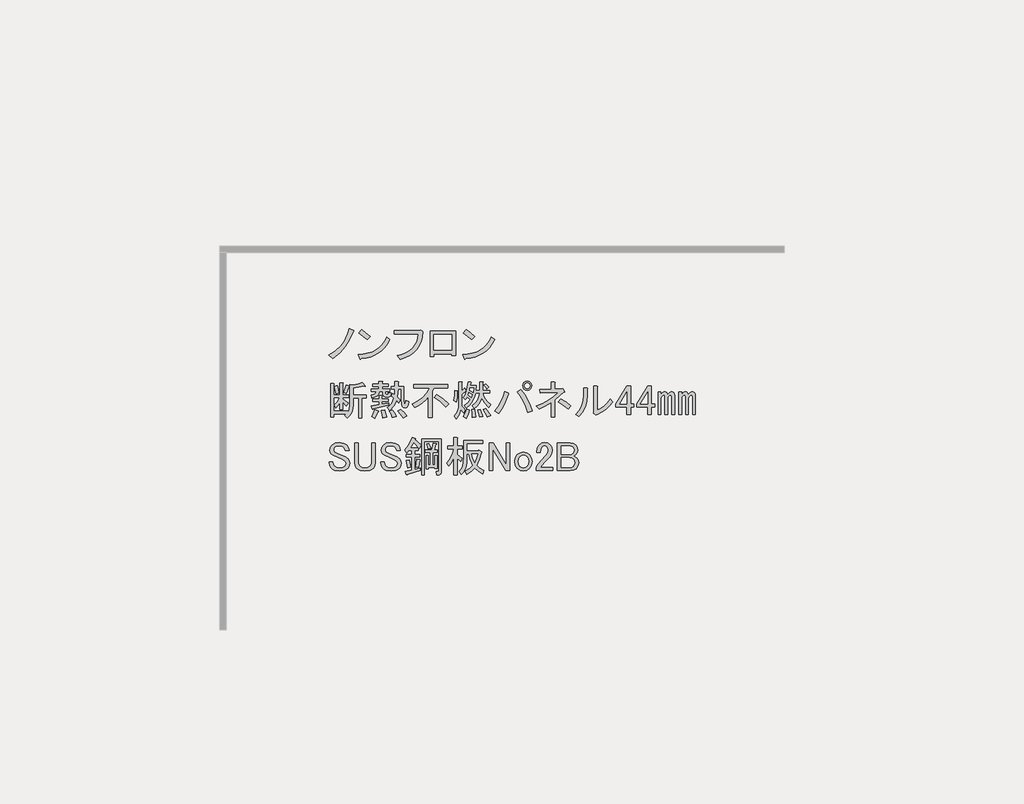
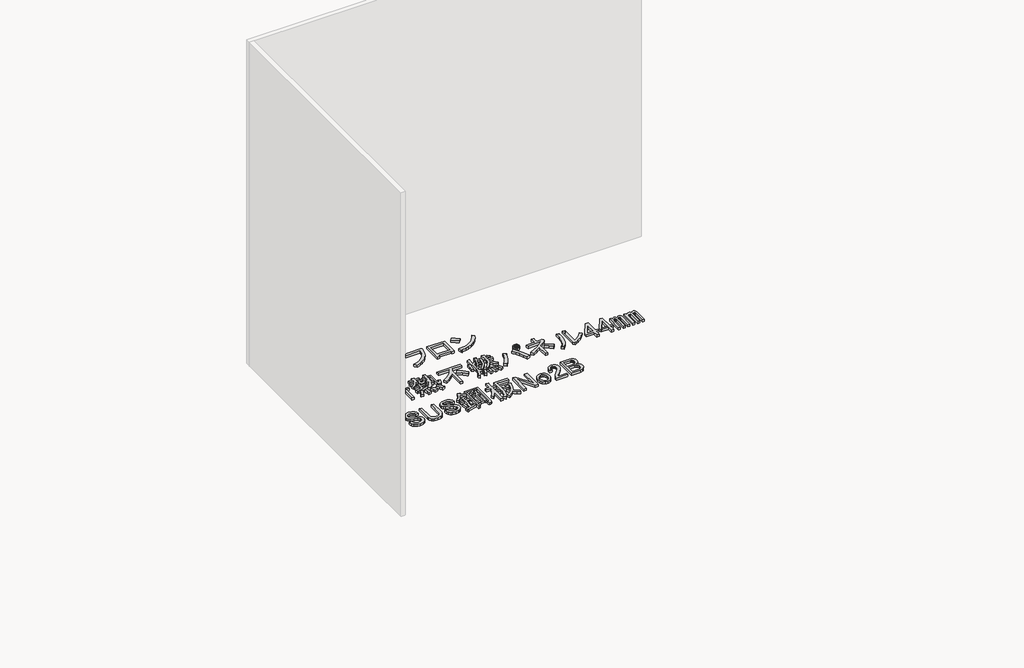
# One storey, part 30 of 117: 1 proxy.
"""IFC4 building model written with IfcOpenShell, lengths in millimetres."""

from ifc_helpers import new_model, si_unit, frame, origin, place, context, project, spatial, polyline, outline, extrude, element, save

model = new_model("IFC4")

# Units and contexts
model_context = context("Model", 3, world=origin())
ifc_project = project(units=[si_unit("LENGTHUNIT", "METRE", prefix="MILLI")], contexts=[model_context])

# Site, building, storey
site = spatial("IfcSite", under=ifc_project)
building = spatial("IfcBuilding", under=site)
storey = spatial("IfcBuildingStorey", under=building, Name="レベル 1", Elevation=500.0)

# Proxy
placement = place(None, origin())
element("IfcBuildingElementProxy", 1, Name="200㎜\u3000MS Pゴシック", ObjectType="200㎜\u3000MS Pゴシック", at=placement, inside=storey, context=model_context, shape_type="SweptSolid", body=[
    extrude(outline(polyline([(8943.6706985, -20607.0496882), (8918.0952502, -20666.8215225), (8889.646156, -20712.7998566), (8847.9782907, -20758.2034615), (8798.8389462, -20795.560858), (8771.2519457, -20773.7211493), (8818.9544673, -20743.2605029), (8858.6107805, -20704.7536481), (8875.9963381, -20680.8305462), (8891.3703435, -20652.7406577), (8904.7327969, -20620.4839827), (8916.0836981, -20584.0605212), (8947.1190736, -20597.8540214), (8950.2800841, -20602.4518548), (8943.6706985, -20607.0496882)])), frame((0.0, 0.0, 500.0), z_axis=(0.0, 0.0, 1.0), x_axis=(1.0, 0.0, 0.0)), (0.0, 0.0, 1.0), 25.0),
    extrude(outline(polyline([(9043.3977052, -20662.2236891), (8984.7753292, -20615.0958967), (9004.3161212, -20590.9572713), (9031.6157571, -20610.7854279), (9065.2374138, -20640.3839804), (9043.3977052, -20662.2236891)])), frame((0.0, 0.0, 500.0), z_axis=(0.0, 0.0, 1.0), x_axis=(1.0, 0.0, 0.0)), (0.0, 0.0, 1.0), 25.0),
    extrude(outline(polyline([(9205.4713328, -20662.2236891), (9188.947869, -20691.965924), (9169.8381239, -20717.9724192), (9148.1420975, -20740.2431748), (9123.8597898, -20758.7781907), (9096.9912008, -20773.577467), (9067.5363306, -20784.6410036), (9035.495179, -20791.9688006), (9000.8677461, -20795.560858), (8995.1204544, -20803.6070664), (8989.3731626, -20797.8597747), (8980.1774958, -20767.9738575), (9016.0082679, -20765.2977748), (9048.7857912, -20758.9937141), (9078.5100658, -20749.0616756), (9105.1810916, -20735.5016591), (9128.7988687, -20718.3136646), (9149.363397, -20697.4976923), (9166.8746766, -20673.053742), (9181.3327074, -20644.9818138), (9205.4713328, -20662.2236891)])), frame((0.0, 0.0, 500.0), z_axis=(0.0, 0.0, 1.0), x_axis=(1.0, 0.0, 0.0)), (0.0, 0.0, 1.0), 25.0),
    extrude(outline(polyline([(9256.2314136, -20777.1695243), (9290.014713, -20767.4889298), (9319.5234641, -20755.1142922), (9344.757667, -20740.0456116), (9365.7173217, -20722.282888), (9382.402428, -20701.8261214), (9394.8129862, -20678.6753118), (9402.9489961, -20652.8304591), (9406.8104577, -20624.2915635), (9234.3917049, -20624.2915635), (9234.3917049, -20599.0034798), (9409.1093744, -20599.0034798), (9425.2017914, -20595.5551047), (9437.8458332, -20607.0496882), (9434.325617, -20643.5449909), (9426.0638851, -20676.5919185), (9413.0606375, -20706.1904711), (9395.3158742, -20732.3406486), (9372.8295952, -20755.042451), (9345.6018005, -20774.2958784), (9313.6324901, -20790.1009308), (9276.921664, -20802.4576081), (9256.2314136, -20777.1695243)])), frame((0.0, 0.0, 500.0), z_axis=(0.0, 0.0, 1.0), x_axis=(1.0, 0.0, 0.0)), (0.0, 0.0, 1.0), 25.0),
    extrude(outline(polyline([(9670.955987, -20776.020066), (9644.5184449, -20776.020066), (9644.5184449, -20763.3760241), (9516.9285679, -20763.3760241), (9516.9285679, -20781.7673577), (9490.4910258, -20781.7673577), (9490.4910258, -20602.4518548), (9670.955987, -20602.4518548), (9670.955987, -20776.020066)]), holes=[polyline([(9516.9285679, -20627.7399386), (9516.9285679, -20738.0879404), (9644.5184449, -20738.0879404), (9644.5184449, -20627.7399386), (9516.9285679, -20627.7399386)])]), frame((0.0, 0.0, 500.0), z_axis=(0.0, 0.0, 1.0), x_axis=(1.0, 0.0, 0.0)), (0.0, 0.0, 1.0), 25.0),
    extrude(outline(polyline([(9947.0099049, -20662.2236891), (9930.4864411, -20691.965924), (9911.376696, -20717.9724192), (9889.6806696, -20740.2431748), (9865.3983619, -20758.7781907), (9838.5297729, -20773.577467), (9809.0749026, -20784.6410036), (9777.0337511, -20791.9688006), (9742.4063182, -20795.560858), (9736.6590264, -20803.6070664), (9730.9117347, -20797.8597747), (9721.7160679, -20767.9738575), (9757.5468399, -20765.2977748), (9790.3243633, -20758.9937141), (9820.0486378, -20749.0616756), (9846.7196637, -20735.5016591), (9870.3374407, -20718.3136646), (9890.9019691, -20697.4976923), (9908.4132486, -20673.053742), (9922.8712795, -20644.9818138), (9947.0099049, -20662.2236891)])), frame((0.0, 0.0, 500.0), z_axis=(0.0, 0.0, 1.0), x_axis=(1.0, 0.0, 0.0)), (0.0, 0.0, 1.0), 25.0),
    extrude(outline(polyline([(9784.9362772, -20662.2236891), (9726.3139013, -20615.0958967), (9745.8546933, -20590.9572713), (9773.1543291, -20610.7854279), (9806.7759859, -20640.3839804), (9784.9362772, -20662.2236891)])), frame((0.0, 0.0, 500.0), z_axis=(0.0, 0.0, 1.0), x_axis=(1.0, 0.0, 0.0)), (0.0, 0.0, 1.0), 25.0),
    extrude(outline(polyline([(8877.0021141, -21039.2345221), (8894.2439894, -20986.3594379), (8914.9342397, -20992.1067296), (8916.6584273, -20995.2677401), (8912.635323, -20997.8540214), (8895.3934477, -21046.1312722), (8877.0021141, -21039.2345221)])), frame((0.0, 0.0, 500.0), z_axis=(0.0, 0.0, 1.0), x_axis=(1.0, 0.0, 0.0)), (0.0, 0.0, 1.0), 25.0),
    extrude(outline(polyline([(9031.0295333, -20990.9572713), (9029.3053458, -20995.5551047), (9021.8338665, -20993.256188), (8944.8201569, -21005.9002299), (8944.8201569, -21055.326939), (9036.7768251, -21055.326939), (9036.7768251, -21077.1666477), (9005.7414495, -21077.1666477), (9005.7414495, -21217.4005666), (8982.7522825, -21217.4005666), (8982.7522825, -21077.1666477), (8944.8201569, -21077.1666477), (8944.8201569, -21126.5933568), (8942.2338756, -21154.3958807), (8934.4750317, -21179.1810764), (8921.5436253, -21200.948944), (8903.4396562, -21219.6994833), (8886.1977809, -21200.1586914), (8896.5429061, -21190.9630245), (8806.8851546, -21190.9630245), (8806.8851546, -21212.8027332), (8783.8959876, -21212.8027332), (8783.8959876, -20973.715396), (8805.7356963, -20973.715396), (8810.6208943, -20976.0143127), (8806.8851546, -20980.6121461), (8806.8851546, -21056.4763974), (8849.4151137, -21056.4763974), (8849.4151137, -20969.1175626), (8867.8064473, -20969.1175626), (8872.6916453, -20971.4164793), (8868.9559057, -20976.0143127), (8868.9559057, -21056.4763974), (8912.635323, -21056.4763974), (8912.635323, -21074.867731), (8868.9559057, -21074.867731), (8868.9559057, -21084.0633978), (8909.186948, -21110.5009399), (8895.3934477, -21132.3406486), (8868.9559057, -21105.9031065), (8868.9559057, -21158.7781907), (8849.4151137, -21158.7781907), (8849.4151137, -21110.5009399), (8836.1963426, -21130.3290965), (8821.8281132, -21146.1341488), (8809.1840713, -21127.7428152), (8831.02378, -21103.6041898), (8848.2656553, -21074.867731), (8806.8851546, -21074.867731), (8806.8851546, -21169.1233159), (8904.5891146, -21169.1233159), (8904.5891146, -21182.9168161), (8917.520521, -21158.7781907), (8921.8309898, -21125.4438985), (8921.8309898, -20980.6121461), (8943.6706985, -20986.3594379), (8979.8786366, -20978.8879586), (9010.339283, -20965.6691875), (9031.0295333, -20990.9572713)])), frame((0.0, 0.0, 500.0), z_axis=(0.0, 0.0, 1.0), x_axis=(1.0, 0.0, 0.0)), (0.0, 0.0, 1.0), 25.0),
    extrude(outline(polyline([(8822.9775716, -21047.2807305), (8810.3335297, -20996.7045631), (8829.8743217, -20989.8078129), (8837.6331656, -21013.9464383), (8842.5183636, -21040.3839804), (8822.9775716, -21047.2807305)])), frame((0.0, 0.0, 500.0), z_axis=(0.0, 0.0, 1.0), x_axis=(1.0, 0.0, 0.0)), (0.0, 0.0, 1.0), 25.0),
    extrude(outline(polyline([(9121.8367431, -21167.9738575), (9125.2851182, -21172.8590555), (9119.5378264, -21176.020066), (9109.7674304, -21201.5955143), (9098.8475761, -21220.8489417), (9075.858409, -21209.3543582), (9088.5024509, -21185.790462), (9098.8475761, -21158.7781907), (9121.8367431, -21167.9738575)])), frame((0.0, 0.0, 500.0), z_axis=(0.0, 0.0, 1.0), x_axis=(1.0, 0.0, 0.0)), (0.0, 0.0, 1.0), 25.0),
    extrude(outline(polyline([(9166.6656188, -21163.3760241), (9176.7233794, -21190.67566), (9181.6085774, -21212.8027332), (9152.8721186, -21218.550025), (9150.2858373, -21196.9976809), (9142.5269934, -21166.8243992), (9166.6656188, -21163.3760241)])), frame((0.0, 0.0, 500.0), z_axis=(0.0, 0.0, 1.0), x_axis=(1.0, 0.0, 0.0)), (0.0, 0.0, 1.0), 25.0),
    extrude(outline(polyline([(9281.611454, -21157.6287323), (9306.3248086, -21178.8937119), (9325.2908714, -21203.6070664), (9298.8533293, -21218.550025), (9279.5999019, -21188.9514724), (9260.9212037, -21169.1233159), (9281.611454, -21157.6287323)])), frame((0.0, 0.0, 500.0), z_axis=(0.0, 0.0, 1.0), x_axis=(1.0, 0.0, 0.0)), (0.0, 0.0, 1.0), 25.0),
    extrude(outline(polyline([(9222.9890781, -21216.2511083), (9214.655505, -21191.5377537), (9201.1493694, -21170.2727742), (9221.8396197, -21162.2265657), (9238.7941304, -21183.7789098), (9250.5760785, -21207.0554415), (9222.9890781, -21216.2511083)])), frame((0.0, 0.0, 500.0), z_axis=(0.0, 0.0, 1.0), x_axis=(1.0, 0.0, 0.0)), (0.0, 0.0, 1.0), 25.0),
    extrude(outline(polyline([(9083.9046175, -21153.0308989), (9081.8930654, -21157.9160969), (9078.1573257, -21156.479274), (9072.410034, -21132.3406486), (9127.5840349, -21124.2944401), (9127.5840349, -21101.3052731), (9083.9046175, -21101.3052731), (9083.9046175, -21082.9139395), (9127.5840349, -21082.9139395), (9127.5840349, -21059.9247724), (9145.9753685, -21059.9247724), (9150.8605665, -21062.2236891), (9147.1248268, -21066.8215225), (9147.1248268, -21082.9139395), (9191.9537026, -21082.9139395), (9191.9537026, -21101.3052731), (9147.1248268, -21101.3052731), (9147.1248268, -21120.8460651), (9197.7009943, -21111.6503983), (9197.7009943, -21127.7428152), (9083.9046175, -21153.0308989)])), frame((0.0, 0.0, 500.0), z_axis=(0.0, 0.0, 1.0), x_axis=(1.0, 0.0, 0.0)), (0.0, 0.0, 1.0), 25.0),
    extrude(outline(polyline([(9154.021577, -21031.1883136), (9128.7334932, -21031.1883136), (9124.1356598, -21048.6457123), (9113.7905346, -21061.9363245), (9097.6981177, -21071.0601502), (9075.858409, -21076.0171893), (9071.2605756, -21056.4763974), (9096.5486594, -21047.8554597), (9104.0201386, -21040.5276627), (9108.0432429, -21031.1883136), (9072.410034, -21031.1883136), (9072.410034, -21012.79698), (9126.4345765, -21012.79698), (9126.4345765, -20995.5551047), (9082.7551591, -20995.5551047), (9082.7551591, -20977.1637711), (9126.4345765, -20977.1637711), (9126.4345765, -20958.7724374), (9148.2742852, -20958.7724374), (9153.1594832, -20961.0713541), (9149.4237436, -20965.6691875), (9149.4237436, -20977.1637711), (9191.9537026, -20977.1637711), (9191.9537026, -20995.5551047), (9149.4237436, -20995.5551047), (9149.4237436, -21012.79698), (9202.2988277, -21012.79698), (9202.2988277, -21031.1883136), (9173.5623689, -21031.1883136), (9173.5623689, -21043.8323555), (9174.9991919, -21049.0049181), (9179.3096607, -21050.7291056), (9189.6547859, -21050.7291056), (9193.3905255, -21047.5680951), (9193.1031609, -21038.0850637), (9212.6439529, -21040.3839804), (9209.770307, -21061.9363245), (9204.4540622, -21067.3244106), (9196.551536, -21069.1204392), (9172.4129106, -21069.1204392), (9158.6194104, -21064.2352412), (9154.021577, -21049.5796472), (9154.021577, -21031.1883136)])), frame((0.0, 0.0, 500.0), z_axis=(0.0, 0.0, 1.0), x_axis=(1.0, 0.0, 0.0)), (0.0, 0.0, 1.0), 25.0),
    extrude(outline(polyline([(9285.0598291, -21013.9464383), (9263.2201204, -21013.9464383), (9258.622287, -21071.4193559), (9278.163079, -21089.8106896), (9267.8179538, -21111.6503983), (9251.7255369, -21095.5579813), (9232.4721095, -21133.2027424), (9202.2988277, -21165.6749408), (9185.0569525, -21144.9846905), (9200.1435933, -21133.0590601), (9213.2186821, -21117.9724192), (9224.2822187, -21099.7247679), (9233.3342033, -21078.316106), (9216.092328, -21063.3731475), (9224.1385364, -21046.1312722), (9237.9320367, -21056.4763974), (9240.2309534, -21013.9464383), (9212.6439529, -21013.9464383), (9212.6439529, -20995.5551047), (9240.2309534, -20995.5551047), (9240.2309534, -20961.0713541), (9262.0706621, -20961.0713541), (9266.95586, -20963.3702708), (9263.2201204, -20967.9681043), (9263.2201204, -20995.5551047), (9304.6006211, -20995.5551047), (9304.6006211, -21092.1096063), (9308.0489961, -21116.2482317), (9311.2818477, -21118.2597838), (9314.0836525, -21115.0987733), (9318.3941213, -21093.2590646), (9337.9349133, -21100.1558147), (9333.408921, -21126.9525626), (9325.578236, -21142.9731384), (9314.4428582, -21148.2175421), (9300.0027877, -21142.6857738), (9293.4652433, -21135.3579768), (9288.7955687, -21123.719711), (9285.0598291, -21087.5117729), (9285.0598291, -21013.9464383)])), frame((0.0, 0.0, 500.0), z_axis=(0.0, 0.0, 1.0), x_axis=(1.0, 0.0, 0.0)), (0.0, 0.0, 1.0), 25.0),
    extrude(outline(polyline([(9373.5681222, -20980.6121461), (9614.9543761, -20980.6121461), (9614.9543761, -21005.9002299), (9514.9514995, -21005.9002299), (9504.6063743, -21030.0388553), (9504.6063743, -21216.2511083), (9478.1688322, -21216.2511083), (9478.1688322, -21069.1204392), (9457.3348996, -21092.3969709), (9433.9146857, -21112.7998566), (9407.9081905, -21130.3290965), (9379.315414, -21144.9846905), (9363.222997, -21118.5471484), (9402.807469, -21098.1442626), (9436.500967, -21072.5688143), (9464.3034909, -21041.8208034), (9486.2150407, -21005.9002299), (9373.5681222, -21005.9002299), (9373.5681222, -20980.6121461)])), frame((0.0, 0.0, 500.0), z_axis=(0.0, 0.0, 1.0), x_axis=(1.0, 0.0, 0.0)), (0.0, 0.0, 1.0), 25.0),
    extrude(outline(polyline([(9600.0114176, -21141.5363154), (9560.9298336, -21103.3168252), (9519.5493329, -21073.7182726), (9535.6417498, -21053.0280223), (9579.3211672, -21081.1897519), (9620.7016679, -21119.6966067), (9600.0114176, -21141.5363154)])), frame((0.0, 0.0, 500.0), z_axis=(0.0, 0.0, 1.0), x_axis=(1.0, 0.0, 0.0)), (0.0, 0.0, 1.0), 25.0),
    extrude(outline(polyline([(9767.832337, -21163.3760241), (9759.2113993, -21193.8366704), (9744.8431699, -21220.8489417), (9725.3023779, -21208.2048998), (9739.3832427, -21183.4915453), (9749.4410033, -21155.3298156), (9767.832337, -21163.3760241)])), frame((0.0, 0.0, 500.0), z_axis=(0.0, 0.0, 1.0), x_axis=(1.0, 0.0, 0.0)), (0.0, 0.0, 1.0), 25.0),
    extrude(outline(polyline([(9682.7724189, -21025.4410219), (9687.3702523, -21027.7399386), (9682.7724189, -21032.337772), (9681.6229605, -21071.9940851), (9675.8756688, -21105.9031065), (9657.4843352, -21093.2590646), (9663.2316269, -21058.7753141), (9664.3810853, -21021.9926468), (9682.7724189, -21025.4410219)])), frame((0.0, 0.0, 500.0), z_axis=(0.0, 0.0, 1.0), x_axis=(1.0, 0.0, 0.0)), (0.0, 0.0, 1.0), 25.0),
    extrude(outline(polyline([(9734.4980447, -21007.0496882), (9743.6937116, -21024.2915635), (9745.1305345, -21030.3262199), (9740.2453365, -21030.0388553), (9713.8077944, -21050.7291056), (9713.8077944, -21134.6395653), (9727.6012946, -21146.9962426), (9739.0958781, -21163.3760241), (9726.4518363, -21184.0662744), (9708.0605026, -21158.7781907), (9696.2785545, -21194.6987642), (9674.7262104, -21224.2973168), (9659.7832519, -21205.9059831), (9674.8698927, -21187.1554438), (9685.6460648, -21166.5370346), (9692.111768, -21144.0507556), (9694.2670024, -21119.6966067), (9694.2670024, -20962.2208125), (9712.6583361, -20962.2208125), (9717.543534, -20964.5197292), (9713.8077944, -20969.1175626), (9713.8077944, -21027.7399386), (9734.4980447, -21007.0496882)])), frame((0.0, 0.0, 500.0), z_axis=(0.0, 0.0, 1.0), x_axis=(1.0, 0.0, 0.0)), (0.0, 0.0, 1.0), 25.0),
    extrude(outline(polyline([(9885.0770889, -20976.0143127), (9906.9167975, -21000.1529381), (9889.6749223, -21011.6475216), (9883.0655367, -21000.1529381), (9870.1341303, -20986.3594379), (9885.0770889, -20976.0143127)])), frame((0.0, 0.0, 500.0), z_axis=(0.0, 0.0, 1.0), x_axis=(1.0, 0.0, 0.0)), (0.0, 0.0, 1.0), 25.0),
    extrude(outline(polyline([(9895.422214, -21212.8027332), (9882.203443, -21184.6410036), (9865.5362969, -21159.927649), (9883.9276305, -21151.8814406), (9902.8936933, -21174.8706076), (9918.4113811, -21202.4576081), (9895.422214, -21212.8027332)])), frame((0.0, 0.0, 500.0), z_axis=(0.0, 0.0, 1.0), x_axis=(1.0, 0.0, 0.0)), (0.0, 0.0, 1.0), 25.0),
    extrude(outline(polyline([(9845.9955049, -21157.6287323), (9864.3868385, -21207.0554415), (9840.2482131, -21211.6532749), (9826.4547129, -21161.0771074), (9845.9955049, -21157.6287323)])), frame((0.0, 0.0, 500.0), z_axis=(0.0, 0.0, 1.0), x_axis=(1.0, 0.0, 0.0)), (0.0, 0.0, 1.0), 25.0),
    extrude(outline(polyline([(9787.3731289, -21215.1016499), (9787.9478581, -21188.0893787), (9785.0742122, -21159.927649), (9804.6150042, -21158.7781907), (9810.9370252, -21184.9283682), (9811.5117543, -21212.8027332), (9787.3731289, -21215.1016499)])), frame((0.0, 0.0, 500.0), z_axis=(0.0, 0.0, 1.0), x_axis=(1.0, 0.0, 0.0)), (0.0, 0.0, 1.0), 25.0),
    extrude(outline(polyline([(9906.9167975, -21142.6857738), (9876.1687866, -21112.2251274), (9855.1911717, -21078.316106), (9846.7857575, -21100.4431793), (9835.3630151, -21119.6966067), (9820.9229446, -21136.0763882), (9803.4655459, -21149.5825239), (9789.6720456, -21131.1911902), (9810.5059783, -21112.2969686), (9825.8799837, -21091.2475125), (9835.794062, -21068.042822), (9840.2482131, -21042.6828971), (9811.5117543, -21042.6828971), (9803.537387, -21073.2872258), (9789.9594102, -21100.7305439), (9770.777824, -21125.0128516), (9745.9926283, -21146.1341488), (9733.3485864, -21130.0417319), (9759.2113993, -21108.4893878), (9774.7290871, -21087.5117729), (9752.8893784, -21067.9709809), (9739.0958781, -21088.6612312), (9725.3023779, -21073.7182726), (9737.7308964, -21054.6803687), (9747.4294512, -21029.7514907), (9754.3980425, -20998.9316386), (9758.6366701, -20962.2208125), (9779.3269205, -20964.5197292), (9782.7752955, -20967.1060105), (9777.0280038, -20970.267021), (9774.7290871, -20988.6583546), (9818.4085044, -20988.6583546), (9814.9601294, -21024.2915635), (9840.2482131, -21024.2915635), (9840.2482131, -20962.2208125), (9862.0879218, -20962.2208125), (9866.9731198, -20964.5197292), (9863.2373802, -20969.1175626), (9863.2373802, -21024.2915635), (9912.6640893, -21024.2915635), (9912.6640893, -21042.6828971), (9863.2373802, -21042.6828971), (9869.7749245, -21064.4507647), (9881.3413492, -21084.9254916), (9897.9366542, -21104.1070778), (9919.5608394, -21121.9955234), (9906.9167975, -21142.6857738)]), holes=[polyline([(9782.7752955, -21072.5688143), (9789.6720456, -21053.0280223), (9764.3839619, -21036.9356054), (9758.6366701, -21054.1774807), (9782.7752955, -21072.5688143)]), polyline([(9772.4301704, -21007.0496882), (9768.9817953, -21023.1421052), (9794.269879, -21036.9356054), (9798.8677125, -21007.0496882), (9772.4301704, -21007.0496882)])]), frame((0.0, 0.0, 500.0), z_axis=(0.0, 0.0, 1.0), x_axis=(1.0, 0.0, 0.0)), (0.0, 0.0, 1.0), 25.0),
    extrude(outline(polyline([(10132.2106345, -21016.245355), (10158.8637001, -21052.9561812), (10181.3499791, -21090.6727833), (10199.6694716, -21129.3951616), (10213.8221775, -21169.1233159), (10182.786802, -21179.468441), (10167.3409554, -21136.3637528), (10149.7398744, -21097.856898), (10129.983559, -21063.9478766), (10108.0720092, -21034.6366887), (10132.2106345, -21016.245355)])), frame((0.0, 0.0, 500.0), z_axis=(0.0, 0.0, 1.0), x_axis=(1.0, 0.0, 0.0)), (0.0, 0.0, 1.0), 25.0),
    extrude(outline(polyline([(10044.8517998, -21042.6828971), (10048.874904, -21048.1428243), (10042.5528831, -21053.0280223), (10030.6272527, -21088.4457078), (10015.5406118, -21122.282888), (9997.2929605, -21154.539563), (9975.8842987, -21185.2157328), (9949.4467566, -21167.9738575), (9972.6514471, -21136.5074351), (9991.689351, -21103.0294606), (10006.5604684, -21067.539934), (10017.2647993, -21030.0388553), (10044.8517998, -21042.6828971)])), frame((0.0, 0.0, 500.0), z_axis=(0.0, 0.0, 1.0), x_axis=(1.0, 0.0, 0.0)), (0.0, 0.0, 1.0), 25.0),
    extrude(outline(polyline([(10178.1889686, -21021.9926468), (10165.5449268, -21019.6937301), (10155.1998016, -21012.79698), (10148.3030515, -21002.4518548), (10146.0041348, -20989.8078129), (10148.3030515, -20977.1637711), (10155.1998016, -20966.8186459), (10165.5449268, -20959.9218958), (10178.1889686, -20957.6229791), (10190.8330105, -20959.9218958), (10201.1781357, -20966.8186459), (10208.0748858, -20977.1637711), (10210.3738025, -20989.8078129), (10208.0748858, -21002.4518548), (10201.1781357, -21012.79698), (10190.8330105, -21019.6937301), (10178.1889686, -21021.9926468)]), holes=[polyline([(10178.1889686, -21010.4980633), (10186.5225417, -21009.0612403), (10193.1319272, -21004.7507715), (10197.442396, -20998.141386), (10198.879219, -20989.8078129), (10197.442396, -20981.4742399), (10193.1319272, -20974.8648544), (10186.5225417, -20970.5543855), (10178.1889686, -20969.1175626), (10169.8553956, -20970.5543855), (10163.2460101, -20974.8648544), (10158.9355412, -20981.4742399), (10157.4987183, -20989.8078129), (10158.9355412, -20998.141386), (10163.2460101, -21004.7507715), (10169.8553956, -21009.0612403), (10178.1889686, -21010.4980633)])]), frame((0.0, 0.0, 500.0), z_axis=(0.0, 0.0, 1.0), x_axis=(1.0, 0.0, 0.0)), (0.0, 0.0, 1.0), 25.0),
    extrude(outline(polyline([(10421.8741393, -21011.6475216), (10428.7708894, -21009.3486049), (10441.4149312, -21026.5904802), (10442.5643896, -21032.6251366), (10436.8170978, -21034.6366887), (10373.5968885, -21090.9601479), (10373.5968885, -21211.6532749), (10347.1593464, -21211.6532749), (10347.1593464, -21109.3514816), (10306.9283041, -21133.4901069), (10262.0994283, -21155.3298156), (10242.5586363, -21134.6395653), (10288.1059235, -21115.1706145), (10329.3427419, -21092.3969709), (10366.2690915, -21066.3186345), (10398.8849722, -21036.9356054), (10268.9961784, -21042.6828971), (10265.5478034, -21017.3948134), (10347.1593464, -21015.0958967), (10347.1593464, -20963.3702708), (10370.1485134, -20963.3702708), (10376.1831698, -20966.8186459), (10373.5968885, -20972.5659377), (10373.5968885, -21013.9464383), (10421.8741393, -21011.6475216)])), frame((0.0, 0.0, 500.0), z_axis=(0.0, 0.0, 1.0), x_axis=(1.0, 0.0, 0.0)), (0.0, 0.0, 1.0), 25.0),
    extrude(outline(polyline([(10467.8524733, -21155.3298156), (10430.7824415, -21126.0186277), (10397.7355139, -21104.7536481), (10414.9773892, -21082.9139395), (10453.7716085, -21106.1904711), (10487.3932653, -21132.3406486), (10467.8524733, -21155.3298156)])), frame((0.0, 0.0, 500.0), z_axis=(0.0, 0.0, 1.0), x_axis=(1.0, 0.0, 0.0)), (0.0, 0.0, 1.0), 25.0),
    extrude(outline(polyline([(10674.8469334, -21162.2265657), (10699.6321291, -21150.0135708), (10723.4115488, -21132.9153778), (10746.1851924, -21110.9319868), (10767.9530599, -21084.0633978), (10784.0454768, -21105.9031065), (10760.7689452, -21133.7056304), (10734.6187677, -21157.3413678), (10705.5949443, -21176.8103186), (10673.697475, -21192.1124829), (10664.5018082, -21196.7103163), (10646.1104746, -21182.9168161), (10648.4093913, -21177.1695243), (10648.4093913, -20992.1067296), (10672.5480167, -20992.1067296), (10678.2953084, -20995.5551047), (10674.8469334, -21001.3023965), (10674.8469334, -21162.2265657)])), frame((0.0, 0.0, 500.0), z_axis=(0.0, 0.0, 1.0), x_axis=(1.0, 0.0, 0.0)), (0.0, 0.0, 1.0), 25.0),
    extrude(outline(polyline([(10520.8195142, -21193.2619413), (10545.9639157, -21164.0225944), (10563.9242024, -21131.4785548), (10574.7003745, -21095.6298225), (10578.2924318, -21056.4763974), (10578.2924318, -21004.7507715), (10602.4310572, -21004.7507715), (10608.178349, -21008.1991466), (10604.7299739, -21013.9464383), (10604.7299739, -21055.326939), (10600.9223931, -21101.0897496), (10589.4996507, -21141.82368), (10570.4617468, -21177.5287301), (10543.8086812, -21208.2048998), (10520.8195142, -21193.2619413)])), frame((0.0, 0.0, 500.0), z_axis=(0.0, 0.0, 1.0), x_axis=(1.0, 0.0, 0.0)), (0.0, 0.0, 1.0), 25.0),
    extrude(outline(polyline([(10884.0483535, -20993.256188), (10910.4858955, -20993.256188), (10910.4858955, -21119.6966067), (10934.6245209, -21119.6966067), (10934.6245209, -21141.5363154), (10910.4858955, -21141.5363154), (10910.4858955, -21192.1124829), (10884.0483535, -21192.1124829), (10884.0483535, -21141.5363154), (10807.0346439, -21141.5363154), (10807.0346439, -21118.5471484), (10884.0483535, -20993.256188)]), holes=[polyline([(10884.0483535, -21035.786147), (10832.3227276, -21119.6966067), (10884.0483535, -21119.6966067), (10884.0483535, -21035.786147)])]), frame((0.0, 0.0, 500.0), z_axis=(0.0, 0.0, 1.0), x_axis=(1.0, 0.0, 0.0)), (0.0, 0.0, 1.0), 25.0),
    extrude(outline(polyline([(11031.1790225, -20993.256188), (11057.6165646, -20993.256188), (11057.6165646, -21119.6966067), (11081.75519, -21119.6966067), (11081.75519, -21141.5363154), (11057.6165646, -21141.5363154), (11057.6165646, -21192.1124829), (11031.1790225, -21192.1124829), (11031.1790225, -21141.5363154), (10954.1653129, -21141.5363154), (10954.1653129, -21118.5471484), (11031.1790225, -20993.256188)]), holes=[polyline([(11031.1790225, -21035.786147), (10979.4533967, -21119.6966067), (11031.1790225, -21119.6966067), (11031.1790225, -21035.786147)])]), frame((0.0, 0.0, 500.0), z_axis=(0.0, 0.0, 1.0), x_axis=(1.0, 0.0, 0.0)), (0.0, 0.0, 1.0), 25.0),
    extrude(outline(polyline([(11125.4346074, -21193.2619413), (11105.8938154, -21193.2619413), (11105.8938154, -21035.786147), (11125.4346074, -21035.786147), (11125.4346074, -21053.0280223), (11137.5039201, -21037.5103346), (11150.7226911, -21032.337772), (11159.9183579, -21033.7745949), (11166.8151081, -21038.0850637), (11173.7118582, -21051.878564), (11186.6432646, -21037.22297), (11200.1494003, -21032.337772), (11208.4829733, -21033.7745949), (11215.0923588, -21038.0850637), (11220.2649214, -21046.7060014), (11221.989109, -21058.7753141), (11221.989109, -21193.2619413), (11202.448317, -21193.2619413), (11202.448317, -21069.1204392), (11199.8620357, -21059.6374078), (11192.1031918, -21056.4763974), (11181.7580666, -21061.0742308), (11175.7234103, -21069.6951684), (11173.7118582, -21079.4655644), (11173.7118582, -21193.2619413), (11154.1710662, -21193.2619413), (11154.1710662, -21069.1204392), (11151.5847849, -21059.6374078), (11143.825941, -21056.4763974), (11133.4808158, -21061.0742308), (11127.4461595, -21069.6951684), (11125.4346074, -21079.4655644), (11125.4346074, -21193.2619413)])), frame((0.0, 0.0, 500.0), z_axis=(0.0, 0.0, 1.0), x_axis=(1.0, 0.0, 0.0)), (0.0, 0.0, 1.0), 25.0),
    extrude(outline(polyline([(11347.2800693, -21032.337772), (11355.6136424, -21033.7745949), (11362.2230279, -21038.0850637), (11367.3955905, -21046.7060014), (11369.119778, -21058.7753141), (11369.119778, -21193.2619413), (11349.578986, -21193.2619413), (11349.578986, -21069.1204392), (11346.9927047, -21059.6374078), (11339.2338609, -21056.4763974), (11328.8887357, -21061.0742308), (11322.8540793, -21069.6951684), (11320.8425272, -21079.4655644), (11320.8425272, -21193.2619413), (11301.3017352, -21193.2619413), (11301.3017352, -21069.1204392), (11298.715454, -21059.6374078), (11290.9566101, -21056.4763974), (11280.6114849, -21061.0742308), (11274.5768286, -21069.6951684), (11272.5652764, -21079.4655644), (11272.5652764, -21193.2619413), (11253.0244845, -21193.2619413), (11253.0244845, -21035.786147), (11272.5652764, -21035.786147), (11272.5652764, -21053.0280223), (11284.6345891, -21037.5103346), (11297.8533602, -21032.337772), (11307.049027, -21033.7745949), (11313.9457771, -21038.0850637), (11320.8425272, -21051.878564), (11333.7739337, -21037.22297), (11347.2800693, -21032.337772)])), frame((0.0, 0.0, 500.0), z_axis=(0.0, 0.0, 1.0), x_axis=(1.0, 0.0, 0.0)), (0.0, 0.0, 1.0), 25.0),
    extrude(outline(polyline([(8779.2981542, -21447.2807305), (8783.3212584, -21426.8778448), (8795.3905711, -21409.3486049), (8815.7934569, -21397.2792922), (8844.8172803, -21393.256188), (8876.1400204, -21397.8540214), (8898.8418228, -21411.6475216), (8910.9111355, -21429.1767615), (8914.9342397, -21449.5796472), (8888.4966976, -21449.5796472), (8886.1977809, -21436.9356054), (8879.3010308, -21426.5904802), (8866.0822598, -21418.8316363), (8847.116197, -21416.245355), (8826.7133112, -21418.5442717), (8813.7819048, -21425.4410219), (8807.7472484, -21434.0619595), (8805.7356963, -21443.8323555), (8810.3335297, -21458.7753141), (8831.02378, -21470.2698976), (8890.7956143, -21496.7074397), (8908.0374896, -21508.2020232), (8917.520521, -21521.9955234), (8920.6815315, -21538.0879404), (8916.6584273, -21559.3529199), (8904.5891146, -21577.1695243), (8894.6031951, -21584.7128448), (8881.8873121, -21590.1009308), (8848.2656553, -21594.4113996), (8814.6439985, -21589.238837), (8801.0660217, -21582.7731338), (8789.6432794, -21573.7211493), (8778.4360604, -21555.3298156), (8774.7003208, -21530.0417319), (8801.1378629, -21530.0417319), (8803.4367796, -21547.8583363), (8810.3335297, -21559.927649), (8826.4259466, -21569.4106804), (8849.4151137, -21572.5716909), (8870.3927286, -21569.698045), (8885.0483226, -21561.0771074), (8891.9450727, -21551.8814406), (8894.2439894, -21542.6857738), (8892.5198019, -21533.2027424), (8887.3472393, -21525.4438985), (8868.9559057, -21513.949315), (8839.0699885, -21500.1558147), (8805.7356963, -21485.2128562), (8789.6432794, -21474.867731), (8781.8844355, -21462.7984183), (8779.2981542, -21447.2807305)])), frame((0.0, 0.0, 500.0), z_axis=(0.0, 0.0, 1.0), x_axis=(1.0, 0.0, 0.0)), (0.0, 0.0, 1.0), 25.0),
    extrude(outline(polyline([(8954.7054987, -21395.5551047), (8981.1430408, -21395.5551047), (8981.1430408, -21533.4901069), (8983.7293221, -21548.1457009), (8991.488166, -21559.927649), (9007.0058537, -21569.4106804), (9028.2708332, -21572.5716909), (9049.5358128, -21569.4106804), (9065.0535005, -21559.927649), (9072.8123444, -21548.1457009), (9075.3986257, -21533.4901069), (9075.3986257, -21395.5551047), (9101.8361678, -21395.5551047), (9101.8361678, -21534.6395653), (9097.8130635, -21557.6287323), (9085.7437508, -21576.020066), (9075.2549434, -21584.0662744), (9062.1798546, -21589.8135662), (9028.2708332, -21594.4113996), (8994.3618119, -21589.8135662), (8981.2867231, -21584.0662744), (8970.7979156, -21576.020066), (8958.7286029, -21557.6287323), (8954.7054987, -21534.6395653), (8954.7054987, -21395.5551047)])), frame((0.0, 0.0, 500.0), z_axis=(0.0, 0.0, 1.0), x_axis=(1.0, 0.0, 0.0)), (0.0, 0.0, 1.0), 25.0),
    extrude(outline(polyline([(9144.1822135, -21447.2807305), (9148.2053177, -21426.8778448), (9160.2746304, -21409.3486049), (9180.6775161, -21397.2792922), (9209.7013395, -21393.256188), (9241.0240796, -21397.8540214), (9263.7258821, -21411.6475216), (9275.7951948, -21429.1767615), (9279.818299, -21449.5796472), (9253.3807569, -21449.5796472), (9251.0818402, -21436.9356054), (9244.1850901, -21426.5904802), (9230.966319, -21418.8316363), (9212.0002562, -21416.245355), (9191.5973705, -21418.5442717), (9178.665964, -21425.4410219), (9172.6313077, -21434.0619595), (9170.6197556, -21443.8323555), (9175.217589, -21458.7753141), (9195.9078393, -21470.2698976), (9255.6796736, -21496.7074397), (9272.9215489, -21508.2020232), (9282.4045803, -21521.9955234), (9285.5655908, -21538.0879404), (9281.5424865, -21559.3529199), (9269.4731738, -21577.1695243), (9259.4872544, -21584.7128448), (9246.7713714, -21590.1009308), (9213.1497146, -21594.4113996), (9179.5280578, -21589.238837), (9165.950081, -21582.7731338), (9154.5273386, -21573.7211493), (9143.3201197, -21555.3298156), (9139.5843801, -21530.0417319), (9166.0219222, -21530.0417319), (9168.3208389, -21547.8583363), (9175.217589, -21559.927649), (9191.3100059, -21569.4106804), (9214.2991729, -21572.5716909), (9235.2767879, -21569.698045), (9249.9323819, -21561.0771074), (9256.829132, -21551.8814406), (9259.1280487, -21542.6857738), (9257.4038611, -21533.2027424), (9252.2312986, -21525.4438985), (9233.8399649, -21513.949315), (9203.9540478, -21500.1558147), (9170.6197556, -21485.2128562), (9154.5273386, -21474.867731), (9146.7684948, -21462.7984183), (9144.1822135, -21447.2807305)])), frame((0.0, 0.0, 500.0), z_axis=(0.0, 0.0, 1.0), x_axis=(1.0, 0.0, 0.0)), (0.0, 0.0, 1.0), 25.0),
    extrude(outline(polyline([(9428.7881014, -21365.6691875), (9569.0220204, -21365.6691875), (9569.0220204, -21605.9059831), (9565.2862807, -21617.1132021), (9554.0790618, -21620.8489417), (9537.9866449, -21620.8489417), (9533.3888115, -21599.009233), (9544.883395, -21599.009233), (9548.33177, -21597.8597747), (9549.4812284, -21594.4113996), (9549.4812284, -21384.0605212), (9448.3288934, -21384.0605212), (9448.3288934, -21623.1478584), (9428.7881014, -21623.1478584), (9428.7881014, -21365.6691875)])), frame((0.0, 0.0, 500.0), z_axis=(0.0, 0.0, 1.0), x_axis=(1.0, 0.0, 0.0)), (0.0, 0.0, 1.0), 25.0),
    extrude(outline(polyline([(9417.2935179, -21513.949315), (9419.8797992, -21517.1103254), (9416.1440596, -21519.6966067), (9408.0978511, -21566.8243992), (9389.7065175, -21564.5254825), (9395.4538092, -21510.5009399), (9417.2935179, -21513.949315)])), frame((0.0, 0.0, 500.0), z_axis=(0.0, 0.0, 1.0), x_axis=(1.0, 0.0, 0.0)), (0.0, 0.0, 1.0), 25.0),
    extrude(outline(polyline([(9340.2798083, -21515.0987733), (9351.7743918, -21566.8243992), (9331.0841415, -21572.5716909), (9319.589558, -21520.8460651), (9340.2798083, -21515.0987733)])), frame((0.0, 0.0, 500.0), z_axis=(0.0, 0.0, 1.0), x_axis=(1.0, 0.0, 0.0)), (0.0, 0.0, 1.0), 25.0),
    extrude(outline(polyline([(9413.8451429, -21434.6366887), (9372.4646422, -21390.9572713), (9350.6249335, -21430.0388553), (9405.7989344, -21430.0388553), (9405.7989344, -21448.4301889), (9379.3613923, -21448.4301889), (9379.3613923, -21477.1666477), (9417.2935179, -21477.1666477), (9417.2935179, -21495.5579813), (9379.3613923, -21495.5579813), (9379.3613923, -21582.9168161), (9418.4429763, -21572.5716909), (9420.741893, -21592.1124829), (9328.7852248, -21617.4005666), (9326.4863081, -21623.1478584), (9321.8884747, -21619.6994833), (9314.9917246, -21596.7103163), (9359.8206003, -21587.5146495), (9359.8206003, -21495.5579813), (9321.8884747, -21495.5579813), (9321.8884747, -21477.1666477), (9359.8206003, -21477.1666477), (9359.8206003, -21448.4301889), (9337.9808916, -21448.4301889), (9323.037933, -21466.8215225), (9310.3938912, -21446.1312722), (9338.5556208, -21408.4865112), (9363.2689754, -21357.6229791), (9385.1086841, -21363.3702708), (9388.5570591, -21367.1060105), (9382.8097674, -21369.1175626), (9381.660309, -21372.5659377), (9426.4891847, -21410.4980633), (9413.8451429, -21434.6366887)])), frame((0.0, 0.0, 500.0), z_axis=(0.0, 0.0, 1.0), x_axis=(1.0, 0.0, 0.0)), (0.0, 0.0, 1.0), 25.0),
    extrude(outline(polyline([(9481.6631856, -21397.8540214), (9488.8473003, -21413.0843446), (9494.3072275, -21433.4872303), (9477.0653522, -21439.2345221), (9465.5707687, -21402.4518548), (9481.6631856, -21397.8540214)])), frame((0.0, 0.0, 500.0), z_axis=(0.0, 0.0, 1.0), x_axis=(1.0, 0.0, 0.0)), (0.0, 0.0, 1.0), 25.0),
    extrude(outline(polyline([(9534.5382698, -21399.0034798), (9537.1245511, -21402.4518548), (9531.0898948, -21405.9002299), (9518.4458529, -21443.8323555), (9539.1361032, -21443.8323555), (9539.1361032, -21462.2236891), (9508.1007277, -21462.2236891), (9508.1007277, -21550.7319822), (9523.0436863, -21550.7319822), (9523.0436863, -21482.9139395), (9539.1361032, -21482.9139395), (9539.1361032, -21577.1695243), (9523.0436863, -21577.1695243), (9523.0436863, -21569.1233159), (9477.0653522, -21569.1233159), (9477.0653522, -21581.7673577), (9460.9729353, -21581.7673577), (9460.9729353, -21485.2128562), (9477.0653522, -21485.2128562), (9477.0653522, -21550.7319822), (9492.0083108, -21550.7319822), (9492.0083108, -21462.2236891), (9456.3751019, -21462.2236891), (9456.3751019, -21443.8323555), (9502.353436, -21443.8323555), (9512.6985611, -21394.4056463), (9534.5382698, -21399.0034798)])), frame((0.0, 0.0, 500.0), z_axis=(0.0, 0.0, 1.0), x_axis=(1.0, 0.0, 0.0)), (0.0, 0.0, 1.0), 25.0),
    extrude(outline(polyline([(9657.5303135, -21623.1478584), (9657.5303135, -21503.6041898), (9639.713709, -21537.8005758), (9620.7476462, -21559.927649), (9609.2530627, -21539.2373987), (9626.494938, -21516.5355963), (9640.2884382, -21492.1096063), (9650.6335634, -21465.9594288), (9657.5303135, -21438.0850637), (9616.1498128, -21438.0850637), (9616.1498128, -21416.245355), (9657.5303135, -21416.245355), (9657.5303135, -21356.4735207), (9679.3700222, -21356.4735207), (9684.2552202, -21358.7724374), (9680.5194805, -21363.3702708), (9680.5194805, -21416.245355), (9718.4516061, -21416.245355), (9718.4516061, -21438.0850637), (9680.5194805, -21438.0850637), (9680.5194805, -21478.316106), (9718.4516061, -21504.7536481), (9708.106481, -21527.7428152), (9680.5194805, -21504.7536481), (9680.5194805, -21623.1478584), (9657.5303135, -21623.1478584)])), frame((0.0, 0.0, 500.0), z_axis=(0.0, 0.0, 1.0), x_axis=(1.0, 0.0, 0.0)), (0.0, 0.0, 1.0), 25.0),
    extrude(outline(polyline([(9740.2913148, -21594.4113996), (9769.0277736, -21577.1695243), (9790.8674823, -21555.3298156), (9773.0508779, -21513.3745858), (9763.2804819, -21472.5688143), (9750.63644, -21472.5688143), (9750.63644, -21496.7074397), (9748.193841, -21538.4471461), (9740.866044, -21572.8590555), (9728.653049, -21599.9431679), (9711.554856, -21619.6994833), (9697.7613558, -21596.7103163), (9710.8364446, -21579.3247587), (9720.1757937, -21557.0540032), (9725.7794031, -21529.8980496), (9727.647273, -21497.856898), (9727.647273, -21377.1637711), (9864.4328169, -21377.1637711), (9864.4328169, -21399.0034798), (9750.63644, -21399.0034798), (9750.63644, -21450.7291056), (9829.9490663, -21450.7291056), (9835.6963581, -21444.9818138), (9855.23715, -21458.7753141), (9856.673973, -21462.5110537), (9851.788775, -21466.8215225), (9839.4320977, -21513.3745858), (9820.7533995, -21554.1803573), (9839.7194623, -21572.5716909), (9871.329567, -21590.9630245), (9862.1339002, -21615.1016499), (9834.2595351, -21599.009233), (9805.8104409, -21573.7211493), (9781.3844509, -21598.1471392), (9749.4869817, -21618.550025), (9740.2913148, -21594.4113996)]), holes=[polyline([(9785.1201906, -21472.5688143), (9793.166399, -21505.6157419), (9805.8104409, -21533.4901069), (9818.4544828, -21507.3399294), (9826.5006912, -21472.5688143), (9785.1201906, -21472.5688143)])]), frame((0.0, 0.0, 500.0), z_axis=(0.0, 0.0, 1.0), x_axis=(1.0, 0.0, 0.0)), (0.0, 0.0, 1.0), 25.0),
    extrude(outline(polyline([(9908.1122342, -21395.5551047), (9936.848693, -21395.5551047), (10028.8053612, -21550.7319822), (10028.8053612, -21395.5551047), (10055.2429033, -21395.5551047), (10055.2429033, -21592.1124829), (10026.5064445, -21592.1124829), (9934.5497763, -21436.9356054), (9934.5497763, -21592.1124829), (9908.1122342, -21592.1124829), (9908.1122342, -21395.5551047)])), frame((0.0, 0.0, 500.0), z_axis=(0.0, 0.0, 1.0), x_axis=(1.0, 0.0, 0.0)), (0.0, 0.0, 1.0), 25.0),
    extrude(outline(polyline([(10088.3932822, -21527.7428152), (10093.2784802, -21500.4431793), (10107.9340742, -21478.316106), (10127.1875015, -21465.3846996), (10150.4640332, -21461.0742308), (10173.7405648, -21465.3846996), (10192.9939922, -21478.316106), (10207.6495862, -21500.4431793), (10212.5347842, -21527.7428152), (10207.6495862, -21555.042451), (10192.9939922, -21577.1695243), (10173.7405648, -21590.1009308), (10150.4640332, -21594.4113996), (10127.1875015, -21590.1009308), (10107.9340742, -21577.1695243), (10093.2784802, -21555.042451), (10088.3932822, -21527.7428152)]), holes=[polyline([(10150.4640332, -21481.7644811), (10137.8199913, -21484.0633978), (10127.4748661, -21490.9601479), (10117.129741, -21507.0525648), (10113.6813659, -21527.7428152), (10116.8423764, -21548.1457009), (10126.3254078, -21563.3760241), (10137.5326267, -21571.134868), (10150.4640332, -21573.7211493), (10163.3954396, -21571.134868), (10174.6026586, -21563.3760241), (10184.08569, -21548.1457009), (10187.2467004, -21527.7428152), (10183.7983254, -21507.0525648), (10173.4532002, -21490.9601479), (10163.1080751, -21484.0633978), (10150.4640332, -21481.7644811)])]), frame((0.0, 0.0, 500.0), z_axis=(0.0, 0.0, 1.0), x_axis=(1.0, 0.0, 0.0)), (0.0, 0.0, 1.0), 25.0),
    extrude(outline(polyline([(10245.3633147, -21462.2236891), (10249.9611481, -21430.900949), (10263.7546484, -21408.1991466), (10280.1344299, -21396.9919276), (10299.3878573, -21393.256188), (10322.0896597, -21396.9919276), (10339.6188996, -21408.1991466), (10350.8261185, -21424.8662927), (10354.5618582, -21444.9818138), (10350.2513893, -21470.8446268), (10337.3199829, -21493.2590646), (10303.9856907, -21531.1911902), (10285.594357, -21551.8814406), (10271.8008568, -21570.2727742), (10358.0102332, -21570.2727742), (10358.0102332, -21592.1124829), (10240.7654813, -21592.1124829), (10240.7654813, -21572.5716909), (10246.8001377, -21558.7781907), (10260.3062733, -21540.3868571), (10307.4340657, -21488.6612312), (10322.0896597, -21467.3962517), (10326.9748577, -21444.9818138), (10324.675941, -21432.337772), (10317.7791909, -21421.9926468), (10310.020347, -21416.8200842), (10300.5373156, -21415.0958967), (10291.916378, -21416.8200842), (10284.4448987, -21421.9926468), (10274.9618673, -21438.3724283), (10271.8008568, -21462.2236891), (10245.3633147, -21462.2236891)])), frame((0.0, 0.0, 500.0), z_axis=(0.0, 0.0, 1.0), x_axis=(1.0, 0.0, 0.0)), (0.0, 0.0, 1.0), 25.0),
    extrude(outline(polyline([(10392.4939838, -21395.5551047), (10484.4506519, -21395.5551047), (10505.4282669, -21399.2908443), (10522.3827776, -21410.4980633), (10532.7279027, -21426.5904802), (10536.1762778, -21447.2807305), (10533.0152673, -21464.2352412), (10523.5322359, -21478.316106), (10506.2903606, -21488.6612312), (10528.1300693, -21501.3052731), (10538.4751945, -21516.8229608), (10541.9235696, -21535.7890237), (10537.6131007, -21559.0655553), (10524.6816943, -21578.3189827), (10507.439819, -21588.6641078), (10483.3011936, -21592.1124829), (10392.4939838, -21592.1124829), (10392.4939838, -21395.5551047)]), holes=[polyline([(10418.9315259, -21417.3948134), (10418.9315259, -21478.316106), (10481.0022769, -21478.316106), (10491.6347666, -21476.3045539), (10500.5430689, -21470.2698976), (10507.439819, -21459.6374078), (10509.7387357, -21446.1312722), (10507.439819, -21434.3493241), (10500.5430689, -21424.2915635), (10492.784225, -21419.1190009), (10483.3011936, -21417.3948134), (10418.9315259, -21417.3948134)]), polyline([(10418.9315259, -21500.1558147), (10418.9315259, -21570.2727742), (10477.5539018, -21570.2727742), (10492.784225, -21567.9738575), (10503.9914439, -21561.0771074), (10511.7502878, -21549.5825239), (10514.3365691, -21535.7890237), (10512.0376524, -21521.4207942), (10505.1409023, -21510.5009399), (10493.0715896, -21502.742096), (10477.5539018, -21500.1558147), (10418.9315259, -21500.1558147)])]), frame((0.0, 0.0, 500.0), z_axis=(0.0, 0.0, 1.0), x_axis=(1.0, 0.0, 0.0)), (0.0, 0.0, 1.0), 25.0),
])

save(model, "model.ifc")
